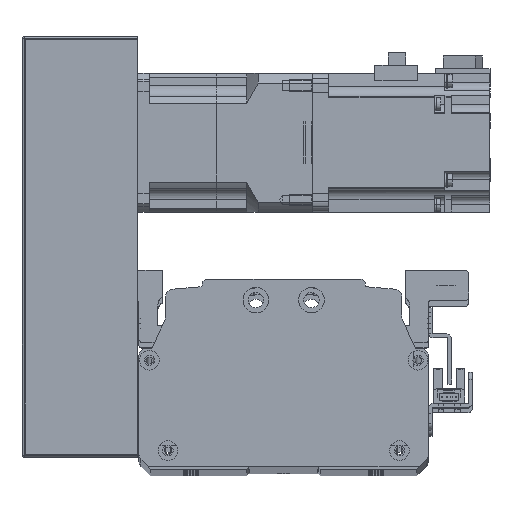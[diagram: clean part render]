
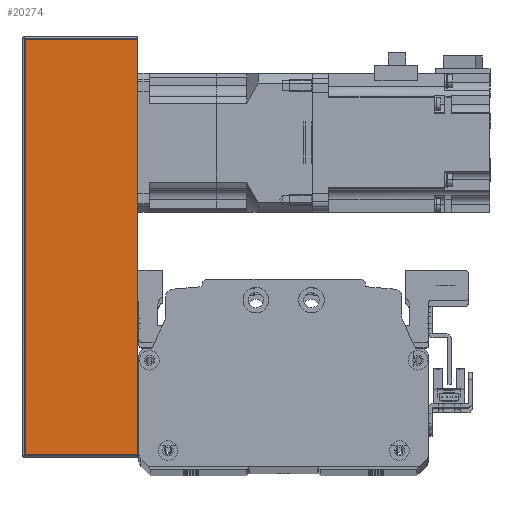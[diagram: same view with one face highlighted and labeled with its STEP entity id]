
A CAD part, top view. The second image highlights one B-rep face of the part: STEP entity #20274.
In plain terms, the highlighted planar face has unit normal (0, 0, 1) as drawn and (0, -1, 0) by its records, which use the part's own axes.
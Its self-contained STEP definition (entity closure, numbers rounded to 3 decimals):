
#604=PLANE('',#22310);
#1823=LINE('',#33520,#3447);
#1832=LINE('',#33559,#3456);
#1835=LINE('',#33569,#3459);
#1836=LINE('',#33571,#3460);
#3447=VECTOR('',#27130,10.);
#3456=VECTOR('',#27179,10.);
#3459=VECTOR('',#27196,10.);
#3460=VECTOR('',#27199,10.);
#5916=FACE_OUTER_BOUND('',#7440,.T.);
#7440=EDGE_LOOP('',(#17453,#17454,#17455,#17456));
#10391=VERTEX_POINT('',#33517);
#10392=VERTEX_POINT('',#33519);
#10401=VERTEX_POINT('',#33556);
#10402=VERTEX_POINT('',#33558);
#12875=EDGE_CURVE('',#10391,#10392,#1823,.T.);
#12895=EDGE_CURVE('',#10401,#10402,#1832,.T.);
#12901=EDGE_CURVE('',#10402,#10391,#1835,.T.);
#12902=EDGE_CURVE('',#10392,#10401,#1836,.T.);
#17453=ORIENTED_EDGE('',*,*,#12895,.F.);
#17454=ORIENTED_EDGE('',*,*,#12902,.F.);
#17455=ORIENTED_EDGE('',*,*,#12875,.F.);
#17456=ORIENTED_EDGE('',*,*,#12901,.F.);
#20274=ADVANCED_FACE('',(#5916),#604,.T.);
#22310=AXIS2_PLACEMENT_3D('',#33570,#27197,#27198);
#27130=DIRECTION('',(1.,0.,0.));
#27179=DIRECTION('',(-1.,0.,0.));
#27196=DIRECTION('',(0.,0.,1.));
#27197=DIRECTION('center_axis',(0.,-1.,0.));
#27198=DIRECTION('ref_axis',(1.,0.,0.));
#27199=DIRECTION('',(0.,0.,-1.));
#33517=CARTESIAN_POINT('',(-90.,-38.,25.));
#33519=CARTESIAN_POINT('',(90.,-38.,25.));
#33520=CARTESIAN_POINT('',(91.,-38.,25.));
#33556=CARTESIAN_POINT('',(90.,-38.,-24.));
#33558=CARTESIAN_POINT('',(-90.,-38.,-24.));
#33559=CARTESIAN_POINT('',(-45.5,-38.,-24.));
#33569=CARTESIAN_POINT('',(-90.,-38.,0.));
#33570=CARTESIAN_POINT('Origin',(-91.,-38.,0.));
#33571=CARTESIAN_POINT('',(90.,-38.,0.));
